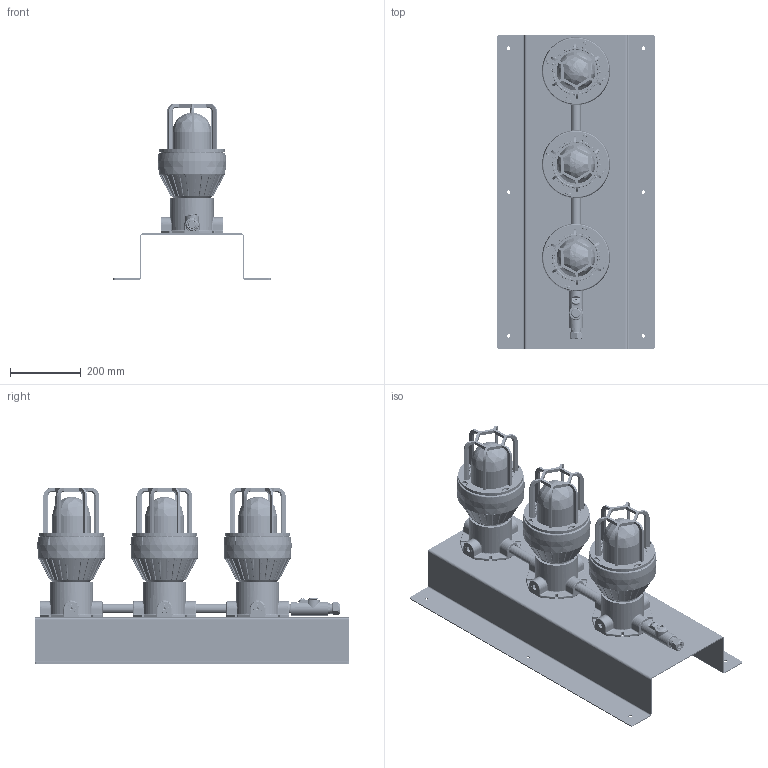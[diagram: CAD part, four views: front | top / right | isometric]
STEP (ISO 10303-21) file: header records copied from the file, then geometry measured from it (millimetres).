
FILE_DESCRIPTION (( 'STEP AP203' ), '1' );
FILE_NAME ('ATEX-EPL-TL-3X10W-C-1227VAC-STB.STEP', '2026-02-13T21:26:33', ( '' ), ( '' ), 'SwSTEP 2.0', 'SolidWorks 2020', '' );
FILE_SCHEMA (( 'CONFIG_CONTROL_DESIGN' ));
Length unit declared in the file: inch
Products named in the file (13): 0.75 NPT Plug_4534K45; Body; EPSL-80-141 Ceiling Mount; ATEX-EPL-TL-3X10W-C-1227VAC-STB; EPSL-80-141_No Pendant; EYM 0.75_7862T13; 0.75 NPT 44665K191_Standard-Wall Aluminum Pipe Nipple_44665K191; Lens A; Small Wire Cage; FAB00001851-1_ATEX-EPL-TL-3X10W-C-1227VAC-STB; CGB-75_CGB-75; 0.75-14 NPT Pipe Fitting_PF-PN0.75-14-L5.00; EPSL-80-141-CLG-WC_EPSL-80-141-CLG-WC
Assembly tree (23 placements, depth 4):
  ATEX-EPL-TL-3X10W-C-1227VAC-STB
    FAB00001851-1_ATEX-EPL-TL-3X10W-C-1227VAC-STB
    EPSL-80-141-CLG-WC_EPSL-80-141-CLG-WC  x3
      EPSL-80-141 Ceiling Mount
      EPSL-80-141_No Pendant
        Body
      Small Wire Cage
    0.75-14 NPT Pipe Fitting_PF-PN0.75-14-L5.00  x2
    0.75 NPT 44665K191_Standard-Wall Aluminum Pipe Nipple_44665K191
    EYM 0.75_7862T13
    CGB-75_CGB-75
    Lens A  x3
    0.75 NPT Plug_4534K45  x7
Bounding box: 444.5 x 889 x 494.67 mm (x, y, z)
Volume: 6001541.1 mm3; surface area: 3678769.1 mm2
Topology: 39 solids, 42 shells, 6049 faces, 16626 edges, 10616 vertices
Faces by surface type: plane 2887, cylinder 2300, bspline 459, cone 346, torus 55, sphere 2
Entity records: 145070 total; most frequent: CARTESIAN_POINT 87005, ORIENTED_EDGE 12748, DIRECTION 10744, EDGE_CURVE 6374, VERTEX_POINT 4084, AXIS2_PLACEMENT_3D 3673, LINE 3398, VECTOR 3398
